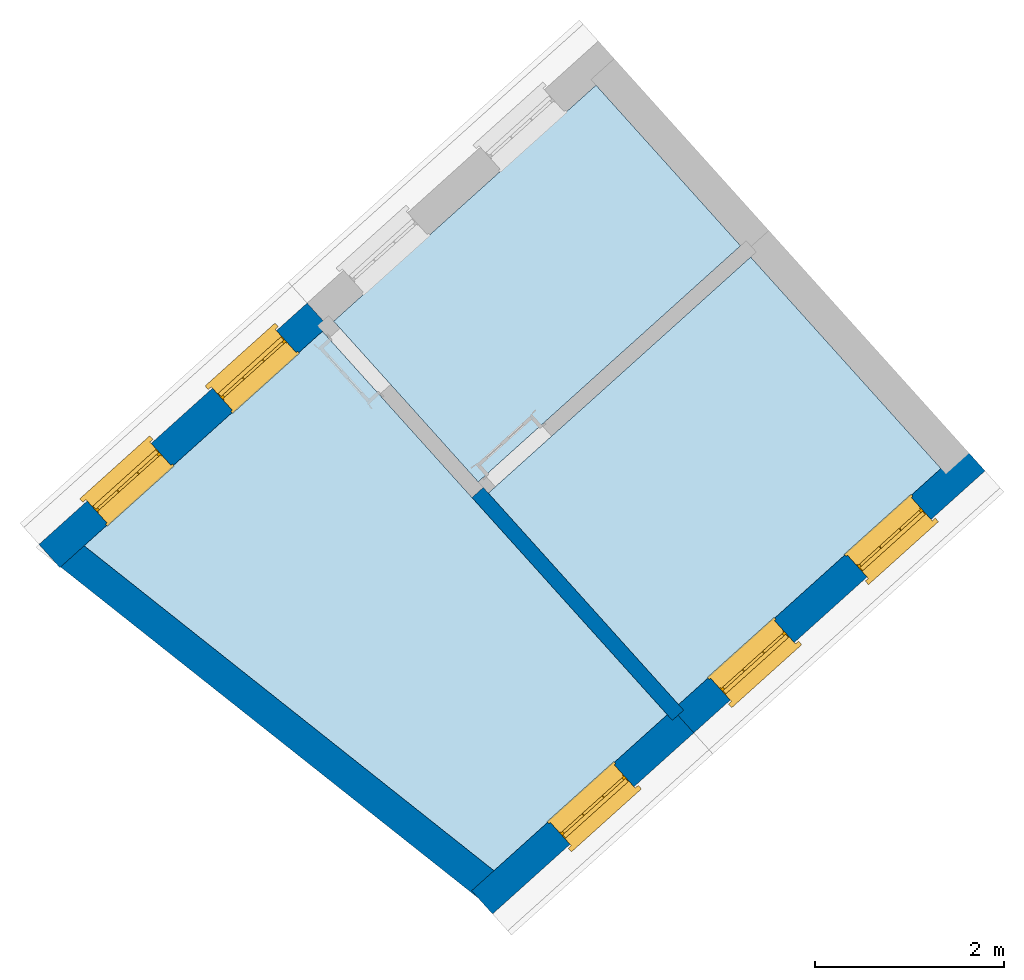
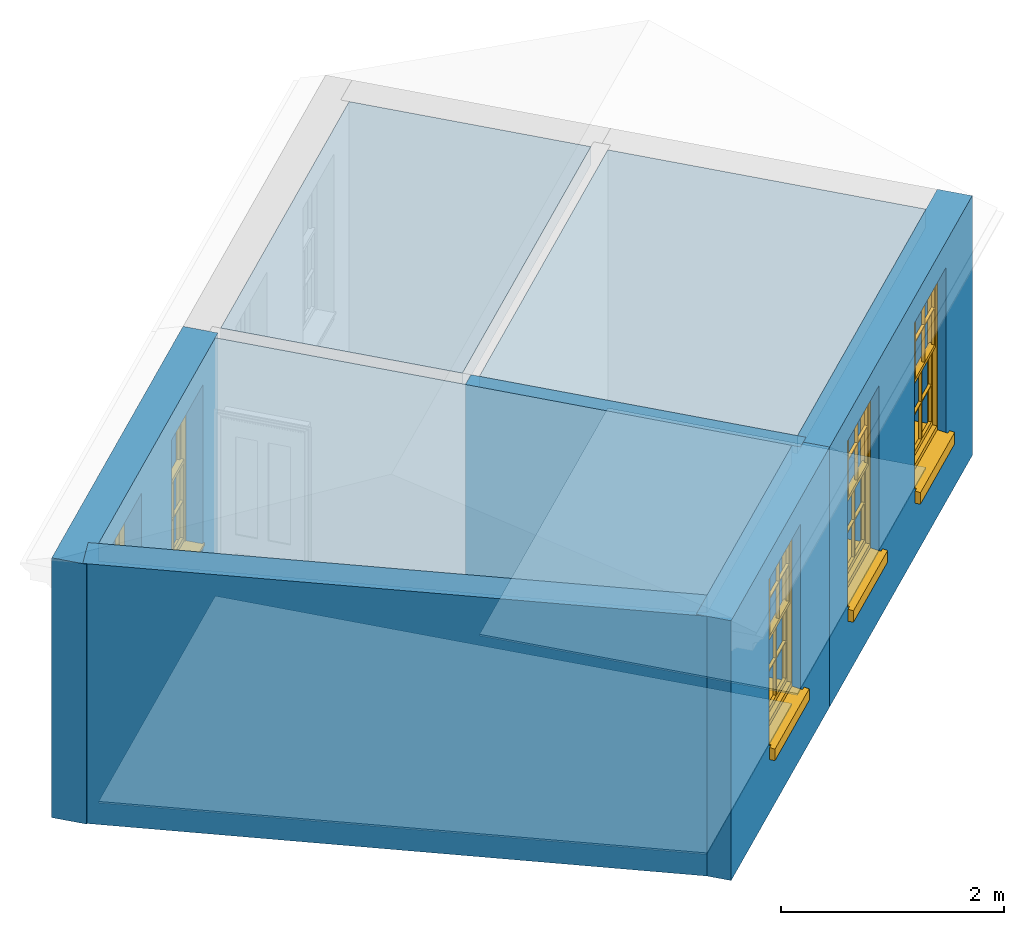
# One storey, part 1 of 3: 5 slabs, 5 walls, 5 windows, 5 openings.
"""IFC4 building model written with IfcOpenShell, lengths in metres."""

from ifc_helpers import new_model, si_unit, frame, origin, origin_with_axes, place, context, subcontext, project, spatial, polyline, outline, extrude, faceted_brep, source, transform, mapped, material, layer, layer_set, layer_usage, type_object, type_shapes, element, fill, save


model = new_model("IFC4")

# Units and contexts
model_context = context("Model", 3, world=origin_with_axes())
body_context = subcontext(model_context, "Body", "Model", "MODEL_VIEW")
ifc_project = project(units=[si_unit("PLANEANGLEUNIT", "RADIAN"), si_unit("MASSUNIT", "GRAM", prefix="KILO"), si_unit("FORCEUNIT", "NEWTON", prefix="KILO"), si_unit("LENGTHUNIT", "METRE"), si_unit("AREAUNIT", "SQUARE_METRE"), si_unit("VOLUMEUNIT", "CUBIC_METRE")], contexts=[model_context, model_context])

# Sites, building, storey
site_1_placement = place(None, origin_with_axes())
site_1 = spatial("IfcSite", under=ifc_project, at=site_1_placement, Name="Tamar")
site_2_placement = place(site_1_placement, origin_with_axes())
site_2 = spatial("IfcSite", under=site_1, at=site_2_placement, Name="Site plot-6", CompositionType="ELEMENT")
building_placement = place(None, origin_with_axes())
building = spatial("IfcBuilding", under=site_2, at=building_placement, Name="Building plot-6", CompositionType="ELEMENT")
storey_placement = place(None, frame((0.0, 0.0, 31.7), z_axis=(0.0, 0.0, 1.0), x_axis=(1.0, 0.0, 0.0)))
storey = spatial("IfcBuildingStorey", under=building, at=storey_placement, Name="plot-6 2", CompositionType="ELEMENT", Elevation=31.7)

# Slabs
slab_1_placement = place(storey_placement, frame((238.531757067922, 282.862532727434, 2.65)))
element("IfcSlab", 1, at=slab_1_placement, inside=storey, Name="My Slab", ObjectType="Slab", PredefinedType="FLOOR", context=body_context, shape_type="SweptSolid", body=[
    extrude(outline(polyline([(0.0, 0.0), (-2.77333065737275, -2.49524804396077), (-0.762267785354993, -4.7304335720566), (2.01106287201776, -2.23518552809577), (0.0, 0.0)])), origin_with_axes(), (0.0, 0.0, 1.0), 0.2),
])
slab_2_placement = place(storey_placement, frame((238.531757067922, 282.862532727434, 0.0)))
element("IfcSlab", 2, at=slab_2_placement, inside=storey, Name="My Slab", ObjectType="Slab", PredefinedType="FLOOR", context=body_context, shape_type="SweptSolid", body=[
    extrude(outline(polyline([(0.0, 0.0), (-2.77333065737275, -2.49524804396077), (-0.762267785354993, -4.7304335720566), (2.01106287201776, -2.23518552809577), (0.0, 0.0)])), origin_with_axes(), (0.0, 0.0, 1.0), 0.02),
])
slab_3_placement = place(storey_placement, frame((237.650546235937, 278.02508256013, 2.65)))
element("IfcSlab", 3, at=slab_3_placement, inside=storey, Name="My Slab", ObjectType="Slab", PredefinedType="FLOOR", context=body_context, shape_type="SweptSolid", body=[
    extrude(outline(polyline([(0.0, 0.0), (-3.64569691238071, 4.05199115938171), (-6.16486551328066, 1.78542027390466), (-1.83251014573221, -1.64876385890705), (0.0, 0.0)])), origin_with_axes(), (0.0, 0.0, 1.0), 0.2),
])
slab_4_placement = place(storey_placement, frame((237.650546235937, 278.02508256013, 0.0)))
element("IfcSlab", 4, at=slab_4_placement, inside=storey, Name="My Slab", ObjectType="Slab", PredefinedType="FLOOR", context=body_context, shape_type="SweptSolid", body=[
    extrude(outline(polyline([(0.0, 0.0), (-3.64569691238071, 4.05199115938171), (-6.16486551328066, 1.78542027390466), (-1.83251014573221, -1.64876385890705), (0.0, 0.0)])), origin_with_axes(), (0.0, 0.0, 1.0), 0.02),
])
slab_5_placement = place(storey_placement, frame((236.89712302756, 284.67933835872, 2.65)))
element("IfcSlab", 5, at=slab_5_placement, inside=storey, Name="My Slab", ObjectType="Slab", PredefinedType="FLOOR", context=body_context, shape_type="SweptSolid", body=[
    extrude(outline(polyline([(0.0, 0.0), (-2.77333065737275, -2.49524804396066), (-1.24571321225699, -4.19311062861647), (1.52761744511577, -1.69786258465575), (0.0, 0.0)])), origin_with_axes(), (0.0, 0.0, 1.0), 0.2),
])

# Wall, opening, window
ifc_material_1 = material(Name="Masonry")
ifc_layer_1 = layer(ifc_material_1, 0.33, ventilated=False)
ifc_layer_set_1 = layer_set([ifc_layer_1], Name="exterior_0.08_0.25")
ifc_layer_usage_1 = layer_usage(ifc_layer_set_1, "AXIS2", "POSITIVE", -0.25)
wall_type_1 = type_object("IfcWallType", Name="exterior_0.08_0.25", PredefinedType="SOLIDWALL", material=ifc_layer_set_1)
wall_1_placement = place(storey_placement, frame((235.821303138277, 276.271643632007, 0.0), z_axis=(0.0, 0.0, 1.0), x_axis=(0.743394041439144, 0.668853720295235, 0.0)))
wall_1 = element("IfcWall", 6, at=wall_1_placement, inside=storey, type_object=wall_type_1, material=ifc_layer_usage_1, Name="exterior", context=body_context, shape_type="SweptSolid", body=[
    extrude(outline(polyline([(-0.249999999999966, 0.0800000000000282), (-0.249999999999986, -0.249999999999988), (2.61264256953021, -0.250000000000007), (2.61264256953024, 0.0800000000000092), (-0.249999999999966, 0.0800000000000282)])), origin_with_axes(), (0.0, 0.0, 1.0), 2.85),
])
opening_1_placement = place(wall_1_placement, frame((0.851321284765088, 0.0, 0.750000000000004)))
opening_1 = element("IfcOpeningElement", 7, at=opening_1_placement, cuts=wall_1, Name="My Opening", ObjectType="Opening", context=body_context, shape_type="SweptSolid", body=[
    extrude(outline(polyline([(0.0, -0.269999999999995), (0.910000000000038, -0.269999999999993), (0.910000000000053, 1.10000000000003), (1.50990331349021e-14, 1.10000000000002), (0.0, -0.269999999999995)])), origin_with_axes(), (0.0, 0.0, 1.0), 1.82),
])
window_type = type_object("IfcWindowType", Name="sash_big", PartitioningType="DOUBLE_PANEL_HORIZONTAL", PredefinedType="NOTDEFINED")
shared_shape = source(origin(), body_context, "Body", "Brep", [
    faceted_brep([(0.033125, 0.145, 0.975209), (0.01, 0.145, 0.975209), (0.033125, 0.145, 1.376042), (0.876875, 0.145, 0.975209), (0.876875, 0.145, 1.376042), (0.9, 0.145, 0.975209), (0.876875, 0.145, 1.386042), (0.876875, 0.145, 1.786875), (0.9, 0.145, 1.81), (0.033125, 0.145, 1.786875), (0.033125, 0.145, 1.386042), (0.01, 0.145, 1.81), (0.876875, 0.115, 1.376042), (0.876875, 0.115, 0.975209), (0.9, 0.115, 0.937083), (0.033125, 0.115, 1.786875), (0.01, 0.115, 1.81), (0.033125, 0.115, 1.386042), (0.01, 0.115, 0.937083), (0.033125, 0.115, 0.975209), (0.033125, 0.115, 1.376042), (0.876875, 0.115, 1.786875), (0.876875, 0.115, 1.386042), (0.9, 0.115, 1.81), (0.033125, 0.145, 0.937083), (0.01, 0.145, 0.937083), (0.033125, 0.145, 0.53625), (0.876875, 0.145, 0.937083), (0.876875, 0.145, 0.53625), (0.9, 0.145, 0.937083), (0.876875, 0.145, 0.52625), (0.876875, 0.145, 0.125417), (0.9, 0.145, 0.077167), (0.033125, 0.145, 0.125417), (0.033125, 0.145, 0.52625), (0.01, 0.145, 0.077167), (-0.0425, 0.0, 0.01), (-0.0425, -0.05, 0.001667), (0.0, 0.0, 0.01), (0.9525, 0.0, 0.01), (0.91, 0.0, 0.01), (0.9525, -0.05, 0.001667), (-0.02, 0.33, 0.077167), (0.0, 0.33, 0.077167), (-0.02, 0.36, 0.077167), (0.0, 0.19, 0.077167), (0.01, 0.19, 0.077167), (0.91, 0.19, 0.077167), (0.91, 0.33, 0.077167), (0.9, 0.19, 0.077167), (0.93, 0.33, 0.077167), (0.93, 0.36, 0.077167), (0.01, 0.175, 0.975209), (0.9, 0.175, 0.975209), (0.876875, 0.175, 0.125417), (0.876875, 0.175, 0.52625), (0.9, 0.175, 0.077167), (0.876875, 0.175, 0.53625), (0.876875, 0.175, 0.937083), (0.033125, 0.175, 0.125417), (0.01, 0.175, 0.077167), (0.033125, 0.175, 0.52625), (0.033125, 0.175, 0.937083), (0.033125, 0.175, 0.53625), (-0.02, 0.33, 0.052167), (-0.02, 0.36, 0.052167), (0.93, 0.36, 0.052167), (0.93, 0.33, 0.052167), (0.91, 0.33, 0.052167), (0.0, 0.33, 0.052167), (0.91, 0.1, 0.026667), (0.0, 0.1, 0.026667), (-0.0425, -0.05, -0.123333), (0.9525, -0.05, -0.123333), (-0.0425, 0.0, -0.123333), (0.9525, 0.0, -0.123333), (0.01, 0.19, 1.81), (0.9, 0.19, 1.81), (0.0, 0.19, 1.82), (0.91, 0.19, 1.82), (0.01, 0.1, 0.077167), (0.9, 0.1, 0.077167), (0.592292, 0.145, 0.125417), (0.592292, 0.175, 0.125417), (0.317708, 0.175, 0.125417), (0.317708, 0.145, 0.125417), (0.592292, 0.145, 0.53625), (0.317708, 0.145, 0.53625), (0.317708, 0.145, 0.52625), (0.592292, 0.145, 0.52625), (0.592292, 0.175, 0.53625), (0.317708, 0.175, 0.53625), (0.592292, 0.115, 1.386042), (0.592292, 0.145, 1.386042), (0.317708, 0.145, 1.386042), (0.317708, 0.115, 1.386042), (0.317708, 0.115, 1.376042), (0.592292, 0.115, 1.376042), (0.317708, 0.145, 1.376042), (0.592292, 0.145, 1.376042), (0.602292, 0.115, 1.376042), (0.592292, 0.115, 0.975209), (0.602292, 0.115, 0.975209), (0.602292, 0.145, 0.975209), (0.592292, 0.145, 0.975209), (0.602292, 0.145, 1.376042), (0.602292, 0.175, 0.53625), (0.602292, 0.145, 0.53625), (0.317708, 0.175, 0.52625), (0.307708, 0.175, 0.125417), (0.307708, 0.175, 0.52625), (0.602292, 0.175, 0.52625), (0.602292, 0.175, 0.125417), (0.592292, 0.175, 0.52625), (0.307708, 0.175, 0.53625), (0.317708, 0.175, 0.937083), (0.307708, 0.175, 0.937083), (0.602292, 0.175, 0.937083), (0.592292, 0.175, 0.937083), (0.307708, 0.145, 0.52625), (0.307708, 0.145, 0.125417), (0.307708, 0.145, 0.53625), (0.307708, 0.145, 0.937083), (0.592292, 0.145, 0.937083), (0.317708, 0.145, 0.937083), (0.602292, 0.145, 0.937083), (0.602292, 0.145, 0.52625), (0.602292, 0.145, 0.125417), (0.307708, 0.115, 1.386042), (0.307708, 0.115, 1.376042), (0.307708, 0.115, 0.975209), (0.317708, 0.115, 0.975209), (0.317708, 0.115, 1.786875), (0.307708, 0.115, 1.786875), (0.602292, 0.115, 1.786875), (0.592292, 0.115, 1.786875), (0.602292, 0.115, 1.386042), (0.602292, 0.145, 1.386042), (0.307708, 0.145, 1.386042), (0.307708, 0.145, 1.786875), (0.317708, 0.145, 1.786875), (0.592292, 0.145, 1.786875), (0.602292, 0.145, 1.786875), (0.307708, 0.145, 1.376042), (0.317708, 0.145, 0.975209), (0.307708, 0.145, 0.975209), (0.91, 0.1, 1.82), (0.9, 0.1, 1.81), (0.01, 0.1, 1.81), (0.0, 0.1, 1.82), (0.91, 0.0, 0.0), (0.0, 0.0, 0.0), (0.91, 0.33, 0.0), (0.0, 0.33, 0.0)], [[[0, 1, 2]], [[3, 4, 5]], [[6, 7, 8]], [[9, 10, 11]], [[12, 13, 14]], [[15, 16, 17]], [[18, 19, 20]], [[21, 22, 23]], [[24, 25, 26]], [[27, 28, 29]], [[30, 31, 32]], [[33, 34, 35]], [[14, 27, 29]], [[25, 24, 18]], [[36, 37, 38]], [[39, 40, 41]], [[42, 43, 44]], [[45, 46, 43]], [[47, 48, 49]], [[50, 51, 48]], [[1, 0, 52]], [[5, 53, 3]], [[54, 55, 56]], [[57, 58, 53]], [[59, 60, 61]], [[62, 63, 52]], [[48, 43, 46, 49]], [[51, 44, 43, 48]], [[64, 42, 44, 65]], [[65, 44, 51, 66]], [[66, 51, 50, 67]], [[65, 66, 68, 69]], [[60, 56, 49, 46]], [[70, 71, 38, 40]], [[37, 41, 40, 38]], [[37, 72, 73, 41]], [[74, 75, 73, 72]], [[8, 11, 76, 77]], [[76, 78, 79, 77]], [[32, 35, 80, 81]], [[81, 80, 71, 70]], [[82, 83, 84, 85]], [[86, 87, 88, 89]], [[86, 90, 91, 87]], [[92, 93, 94, 95]], [[92, 95, 96, 97]], [[96, 98, 99, 97]], [[100, 97, 101, 102]], [[103, 104, 99, 105]], [[97, 99, 104, 101]], [[102, 103, 105, 100]], [[28, 57, 106, 107]], [[108, 84, 109, 110]], [[111, 112, 83, 113]], [[114, 110, 61, 63]], [[90, 113, 108, 91]], [[115, 91, 114, 116]], [[117, 106, 90, 118]], [[111, 106, 57, 55]], [[119, 110, 109, 120]], [[34, 61, 110, 119]], [[89, 113, 83, 82]], [[88, 108, 113, 89]], [[85, 84, 108, 88]], [[121, 114, 63, 26]], [[122, 116, 114, 121]], [[123, 118, 90, 86]], [[87, 91, 115, 124]], [[107, 106, 117, 125]], [[126, 111, 55, 30]], [[127, 112, 111, 126]], [[126, 30, 28, 107]], [[88, 119, 120, 85]], [[126, 89, 82, 127]], [[125, 123, 86, 107]], [[121, 26, 34, 119]], [[124, 122, 121, 87]], [[128, 17, 20, 129]], [[96, 129, 130, 131]], [[132, 133, 128, 95]], [[134, 135, 92, 136]], [[100, 12, 22, 136]], [[137, 6, 4, 105]], [[94, 138, 139, 140]], [[137, 93, 141, 142]], [[99, 98, 94, 93]], [[143, 2, 10, 138]], [[144, 145, 143, 98]], [[129, 143, 145, 130]], [[20, 2, 143, 129]], [[131, 144, 98, 96]], [[128, 138, 10, 17]], [[133, 139, 138, 128]], [[135, 141, 93, 92]], [[95, 94, 140, 132]], [[22, 6, 137, 136]], [[136, 137, 142, 134]], [[100, 105, 4, 12]], [[107, 86, 89, 126]], [[106, 111, 113, 90]], [[91, 108, 110, 114]], [[87, 121, 119, 88]], [[97, 100, 136, 92]], [[129, 96, 95, 128]], [[98, 143, 138, 94]], [[105, 99, 93, 137]], [[131, 101, 104, 144]], [[124, 115, 118, 123]], [[132, 140, 141, 135]], [[120, 109, 59, 33]], [[15, 9, 139, 133]], [[134, 142, 7, 21]], [[31, 54, 112, 127]], [[36, 74, 72, 37]], [[39, 41, 73, 75]], [[18, 14, 101, 131]], [[23, 16, 132, 135]], [[83, 56, 60, 84]], [[52, 53, 118, 115]], [[53, 52, 144, 104]], [[11, 8, 141, 140]], [[14, 18, 124, 123]], [[2, 1, 11, 10]], [[8, 5, 4, 6]], [[57, 53, 56, 55]], [[60, 52, 63, 61]], [[26, 25, 35, 34]], [[32, 29, 28, 30]], [[14, 23, 22, 12]], [[18, 20, 17, 16]], [[19, 0, 2, 20]], [[17, 10, 9, 15]], [[12, 4, 3, 13]], [[21, 7, 6, 22]], [[27, 58, 57, 28]], [[30, 55, 54, 31]], [[33, 59, 61, 34]], [[26, 63, 62, 24]], [[5, 8, 77, 53]], [[76, 11, 1, 52]], [[46, 45, 78, 76]], [[49, 77, 79, 47]], [[70, 146, 147, 81]], [[71, 80, 148, 149]], [[19, 130, 145, 0]], [[102, 13, 3, 103]], [[116, 122, 24, 62]], [[29, 32, 81, 14]], [[80, 35, 25, 18]], [[60, 46, 76, 52]], [[77, 49, 56, 53]], [[23, 14, 81, 147]], [[16, 148, 80, 18]], [[35, 85, 120]], [[120, 33, 35]], [[127, 82, 32]], [[32, 31, 127]], [[32, 82, 85, 35]], [[102, 101, 14]], [[14, 13, 102]], [[18, 131, 130]], [[130, 19, 18]], [[134, 21, 23]], [[23, 135, 134]], [[16, 15, 133]], [[133, 132, 16]], [[11, 140, 139]], [[139, 9, 11]], [[142, 141, 8]], [[8, 7, 142]], [[23, 147, 148, 16]], [[146, 149, 148, 147]], [[52, 115, 116]], [[116, 62, 52]], [[118, 53, 117]], [[58, 117, 53]], [[27, 125, 117, 58]], [[56, 83, 112]], [[112, 54, 56]], [[109, 84, 60]], [[60, 59, 109]], [[125, 27, 14]], [[14, 123, 125]], [[122, 124, 18]], [[18, 24, 122]], [[145, 144, 52]], [[52, 0, 145]], [[103, 3, 53]], [[53, 104, 103]], [[79, 78, 149, 146]], [[78, 45, 71, 149]], [[146, 70, 47, 79]], [[150, 75, 74, 151]], [[68, 66, 67]], [[48, 68, 67, 50]], [[69, 64, 65]], [[42, 64, 69, 43]], [[69, 68, 152, 153]], [[70, 68, 48, 47]], [[150, 152, 68, 70]], [[43, 69, 71, 45]], [[69, 153, 151, 71]], [[152, 150, 151, 153]], [[38, 151, 74, 36]], [[71, 151, 38]], [[39, 75, 150, 40]], [[40, 150, 70]]]),
])
type_shapes(window_type, [shared_shape])
window_1_placement = place(storey_placement, frame((236.634760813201, 276.6403366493, 0.750000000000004), z_axis=(0.0, 0.0, 1.0), x_axis=(0.676488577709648, 0.60865688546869, 0.0)))
window_1 = element("IfcWindow", 8, at=window_1_placement, inside=storey, type_object=window_type, Name="bedroom outside window", OverallHeight=1.82, OverallWidth=0.91, context=body_context, shape_type="MappedRepresentation", body=[
    mapped(shared_shape, transform((0.0, 0.0, 0.0), scale=1.0)),
])
fill(opening_1, window_1)

# Wall, openings, windows
wall_2_placement = place(storey_placement, frame((237.763526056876, 278.019119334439, 0.0), z_axis=(0.0, 0.0, 1.0), x_axis=(0.743394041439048, 0.668853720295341, 0.0)))
wall_2 = element("IfcWall", 9, at=wall_2_placement, inside=storey, type_object=wall_type_1, material=ifc_layer_usage_1, Name="exterior", context=body_context, shape_type="SweptSolid", body=[
    extrude(outline(polyline([(3.37734421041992e-14, 0.0800000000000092), (-3.37354718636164e-14, -0.250000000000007), (4.14063342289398, -0.25000000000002), (4.14063342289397, 0.0799999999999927), (3.37734421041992e-14, 0.0800000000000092)])), origin_with_axes(), (0.0, 0.0, 1.0), 2.85),
])
opening_2_placement = place(wall_2_placement, frame((0.517658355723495, 0.0, 0.750000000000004)))
opening_2 = element("IfcOpeningElement", 10, at=opening_2_placement, cuts=wall_2, Name="My Opening", ObjectType="Opening", context=body_context, shape_type="SweptSolid", body=[
    extrude(outline(polyline([(0.0, -0.269999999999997), (0.909999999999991, -0.270000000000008), (0.91000000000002, 1.10000000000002), (2.91988655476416e-14, 1.10000000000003), (0.0, -0.269999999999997)])), origin_with_axes(), (0.0, 0.0, 1.0), 1.82),
])
opening_3_placement = place(wall_2_placement, frame((2.46297506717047, 0.0, 0.750000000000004)))
opening_3 = element("IfcOpeningElement", 11, at=opening_3_placement, cuts=wall_2, Name="My Opening", ObjectType="Opening", context=body_context, shape_type="SweptSolid", body=[
    extrude(outline(polyline([(0.0, -0.270000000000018), (0.909999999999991, -0.270000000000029), (0.910000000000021, 1.1), (2.93098878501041e-14, 1.10000000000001), (0.0, -0.270000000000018)])), origin_with_axes(), (0.0, 0.0, 1.0), 1.82),
])
window_2_placement = place(storey_placement, frame((238.328940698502, 278.164640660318, 0.750000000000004), z_axis=(0.0, 0.0, 1.0), x_axis=(0.676488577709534, 0.608656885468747, 0.0)))
window_2 = element("IfcWindow", 12, at=window_2_placement, inside=storey, type_object=window_type, Name="toilet outside window", OverallHeight=1.82, OverallWidth=0.91, context=body_context, shape_type="MappedRepresentation", body=[
    mapped(shared_shape, transform((0.0, 0.0, 0.0), scale=1.0)),
])
fill(opening_2, window_2)
window_3_placement = place(storey_placement, frame((239.775077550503, 279.465772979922, 0.750000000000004), z_axis=(0.0, 0.0, 1.0), x_axis=(0.676488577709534, 0.608656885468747, 0.0)))
window_3 = element("IfcWindow", 13, at=window_3_placement, inside=storey, type_object=window_type, Name="toilet outside window", OverallHeight=1.82, OverallWidth=0.91, context=body_context, shape_type="MappedRepresentation", body=[
    mapped(shared_shape, transform((0.0, 0.0, 0.0), scale=1.0)),
])
fill(opening_3, window_3)

wall_3_placement = place(storey_placement, frame((234.010812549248, 282.190053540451, 0.0), z_axis=(0.0, 0.0, 1.0), x_axis=(-0.743394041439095, -0.668853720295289, 0.0)))
wall_3 = element("IfcWall", 14, at=wall_3_placement, inside=storey, type_object=wall_type_1, material=ifc_layer_usage_1, Name="exterior", context=body_context, shape_type="SweptSolid", body=[
    extrude(outline(polyline([(-3.09943590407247e-14, 0.0799999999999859), (4.90028939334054e-15, -0.250000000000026), (3.81343681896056, -0.249999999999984), (3.81343681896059, 0.0800000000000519), (-3.09943590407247e-14, 0.0799999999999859)])), origin_with_axes(), (0.0, 0.0, 1.0), 2.85),
])
opening_4_placement = place(wall_3_placement, frame((0.435859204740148, 0.0, 0.750000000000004)))
opening_4 = element("IfcOpeningElement", 15, at=opening_4_placement, cuts=wall_3, Name="My Opening", ObjectType="Opening", context=body_context, shape_type="SweptSolid", body=[
    extrude(outline(polyline([(0.0, -0.27), (0.909999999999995, -0.270000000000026), (0.910000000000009, 1.10000000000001), (1.32116539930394e-14, 1.10000000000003), (0.0, -0.27)])), origin_with_axes(), (0.0, 0.0, 1.0), 1.82),
])
opening_5_placement = place(wall_3_placement, frame((2.21757761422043, 0.0, 0.750000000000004)))
opening_5 = element("IfcOpeningElement", 16, at=opening_5_placement, cuts=wall_3, Name="My Opening", ObjectType="Opening", context=body_context, shape_type="SweptSolid", body=[
    extrude(outline(polyline([(0.0, -0.269999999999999), (0.909999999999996, -0.270000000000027), (0.91000000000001, 1.10000000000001), (1.33226762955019e-14, 1.10000000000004), (0.0, -0.269999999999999)])), origin_with_axes(), (0.0, 0.0, 1.0), 1.82),
])
window_4_placement = place(storey_placement, frame((233.506206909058, 282.099243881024, 0.750000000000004), z_axis=(0.0, 0.0, 1.0), x_axis=(-0.676488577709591, -0.60865688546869, 0.0)))
window_4 = element("IfcWindow", 17, at=window_4_placement, inside=storey, type_object=window_type, Name="bedroom outside window", OverallHeight=1.82, OverallWidth=0.91, context=body_context, shape_type="MappedRepresentation", body=[
    mapped(shared_shape, transform((0.0, 0.0, 0.0), scale=1.0)),
])
fill(opening_4, window_4)
window_5_placement = place(storey_placement, frame((232.181688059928, 280.907534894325, 0.750000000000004), z_axis=(0.0, 0.0, 1.0), x_axis=(-0.676488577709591, -0.60865688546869, 0.0)))
window_5 = element("IfcWindow", 18, at=window_5_placement, inside=storey, type_object=window_type, Name="bedroom outside window", OverallHeight=1.82, OverallWidth=0.91, context=body_context, shape_type="MappedRepresentation", body=[
    mapped(shared_shape, transform((0.0, 0.0, 0.0), scale=1.0)),
])
fill(opening_5, window_5)

# Walls
ifc_material_2 = material(Name="Masonry")
ifc_layer_2 = layer(ifc_material_2, 0.33, ventilated=False)
ifc_layer_set_2 = layer_set([ifc_layer_2], Name="party_0.08_0.25")
ifc_layer_usage_2 = layer_usage(ifc_layer_set_2, "AXIS2", "POSITIVE", -0.25)
wall_type_2 = type_object("IfcWallType", Name="party_0.08_0.25", PredefinedType="SOLIDWALL", material=ifc_layer_set_2)
wall_4_placement = place(storey_placement, frame((231.361774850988, 279.806635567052, 0.0), z_axis=(0.0, 0.0, 1.0), x_axis=(0.783658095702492, -0.621192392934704, 0.0)))
element("IfcWall", 19, at=wall_4_placement, inside=storey, type_object=wall_type_2, material=ifc_layer_usage_2, Name="party", context=body_context, shape_type="SweptSolid", body=[
    extrude(outline(polyline([(-1.1505893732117e-14, 0.0799999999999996), (8.42254164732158e-16, -0.250000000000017), (5.69065554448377, -0.250000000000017), (5.69065554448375, 0.0799999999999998), (-1.1505893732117e-14, 0.0799999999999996)])), origin_with_axes(), (0.0, 0.0, 1.0), 2.85),
])
ifc_material_3 = material(Name="Masonry")
ifc_layer_3 = layer(ifc_material_3, 0.16, ventilated=False)
ifc_layer_set_3 = layer_set([ifc_layer_3], Name="interior_0.08_0.08")
ifc_layer_usage_3 = layer_usage(ifc_layer_set_3, "AXIS2", "POSITIVE", -0.08)
wall_type_3 = type_object("IfcWallType", Name="interior_0.08_0.08", PredefinedType="SOLIDWALL", material=ifc_layer_set_3)
wall_5_placement = place(storey_placement, frame((235.645446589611, 280.373247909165, 0.0), z_axis=(0.0, 0.0, 1.0), x_axis=(0.668853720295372, -0.74339404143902, 0.0)))
element("IfcWall", 20, at=wall_5_placement, inside=storey, type_object=wall_type_3, material=ifc_layer_usage_3, Name="interior", context=body_context, shape_type="SweptSolid", body=[
    extrude(outline(polyline([(-3.03267160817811e-15, 0.080000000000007), (3.04063800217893e-15, -0.080000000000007), (3.1667304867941, -0.080000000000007), (3.16673048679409, 0.0800000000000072), (-3.03267160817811e-15, 0.080000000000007)])), origin_with_axes(), (0.0, 0.0, 1.0), 2.85),
])

save(model, "model.ifc")
